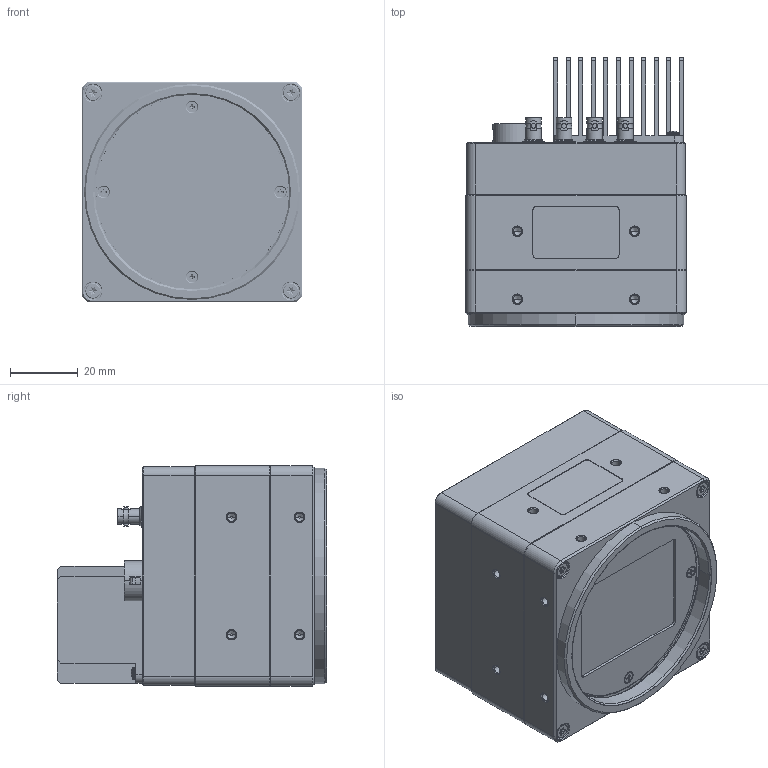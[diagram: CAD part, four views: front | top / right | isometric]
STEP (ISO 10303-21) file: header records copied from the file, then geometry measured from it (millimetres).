
FILE_DESCRIPTION((''),'2;1');
FILE_NAME('656579-CXP12-M58-3000_ASM-001_ASM','2025-12-17T10:24:22',('23989'),(''),'CREO PARAMETRIC BY PTC INC, 2020184','CREO PARAMETRIC BY PTC INC, 2020184','');
FILE_SCHEMA(('CONFIG_CONTROL_DESIGN','SHAPE_APPEARANCE_LAYERS_GROUPS'));
Products named in the file (13): DH9-RDI000594-01-6100_1_1_1_1; DH9-RDI000594-01-6100_1_1_1_2; DH9-RDI000594-01-6100_1_1_1_4; DH9-RDI000594-01-6100_1_1_1_ASM; DH9-RDI000594-01-V001_ASM_1_ASM_ASM; DH0-000-2256_1_1_1; 1-2-54-14-10508-000_1_1_1; 1-2-54-14-10496-000_1_1_1; 1-2-54-14-10306-000_1_1_1; 0-DH9-RDI000594-01-0000_ASM_1_A_ASM; 2632_008_1; 656579-CXP12-M58-3000_ASM_1_ASM; 656579-CXP12-M58-3000_ASM-001_ASM
Assembly tree (19 placements, depth 6):
  656579-CXP12-M58-3000_ASM-001_ASM
    656579-CXP12-M58-3000_ASM_1_ASM
      0-DH9-RDI000594-01-0000_ASM_1_A_ASM
        DH9-RDI000594-01-V001_ASM_1_ASM_ASM
          DH9-RDI000594-01-6100_1_1_1_ASM
            DH9-RDI000594-01-6100_1_1_1_1
            DH9-RDI000594-01-6100_1_1_1_2
            DH9-RDI000594-01-6100_1_1_1_4
        DH0-000-2256_1_1_1
        1-2-54-14-10508-000_1_1_1
        1-2-54-14-10496-000_1_1_1  x2
        1-2-54-14-10306-000_1_1_1  x4
      2632_008_1  x4
Bounding box: 65 x 79.15 x 65 mm (x, y, z)
Volume: 214863.6 mm3; surface area: 58865.1 mm2
Topology: 15 solids, 113 shells, 3112 faces, 8667 edges, 5654 vertices
Faces by surface type: plane 1210, cylinder 984, bspline 420, cone 409, torus 61, extrusion 16, sphere 12
Entity records: 147732 total; most frequent: CARTESIAN_POINT 52728, ORIENTED_EDGE 13396, DIRECTION 12654, PRESENTATION_STYLE_ASSIGNMENT 8280, STYLED_ITEM 6872, CURVE_STYLE 6810, EDGE_CURVE 6806, VERTEX_POINT 4682
